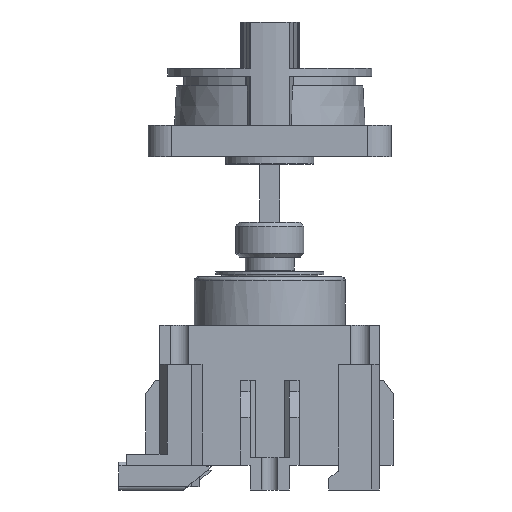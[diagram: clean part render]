
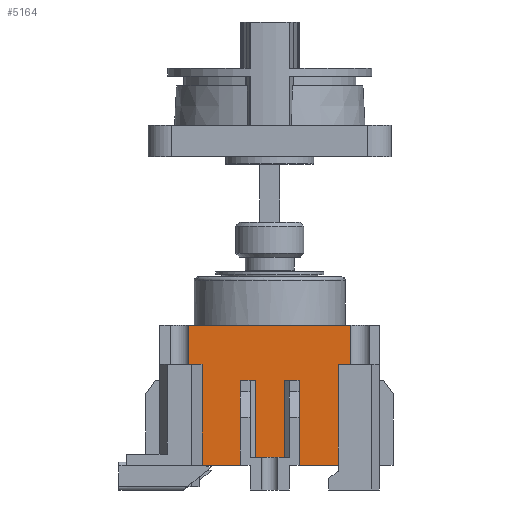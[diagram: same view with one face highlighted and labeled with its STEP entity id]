
A CAD part, left-side view. The second image highlights one B-rep face of the part: STEP entity #5164.
In plain terms, the highlighted planar face has unit normal (-1, 0, 0).
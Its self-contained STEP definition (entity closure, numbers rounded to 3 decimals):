
#5 = DIRECTION ( 'NONE',  ( 0., 1., 0. ) ) ;
#62 = VERTEX_POINT ( 'NONE', #10648 ) ;
#73 = DIRECTION ( 'NONE',  ( 0., 1., 0. ) ) ;
#78 = CARTESIAN_POINT ( 'NONE',  ( -19.75, 28.156, 28. ) ) ;
#99 = EDGE_LOOP ( 'NONE', ( #9365, #6759, #11222, #3798, #8812, #12353, #3203, #12714, #8149, #7999, #6955, #6650, #4840, #10590, #1979, #6684 ) ) ;
#814 = CARTESIAN_POINT ( 'NONE',  ( -19.75, 17.158, 32. ) ) ;
#860 = LINE ( 'NONE', #814, #12434 ) ;
#1050 = CARTESIAN_POINT ( 'NONE',  ( -19.75, -21.033, 6.3 ) ) ;
#1180 = VECTOR ( 'NONE', #8472, 1000. ) ;
#1215 = VECTOR ( 'NONE', #9196, 1000. ) ;
#1241 = CARTESIAN_POINT ( 'NONE',  ( -19.75, 13.725, 42. ) ) ;
#1351 = CARTESIAN_POINT ( 'NONE',  ( -19.75, 17.158, 42. ) ) ;
#1528 = VERTEX_POINT ( 'NONE', #9321 ) ;
#1536 = VERTEX_POINT ( 'NONE', #8112 ) ;
#1635 = DIRECTION ( 'NONE',  ( 0., 0., 1. ) ) ;
#1711 = AXIS2_PLACEMENT_3D ( 'NONE', #1976, #7998, #73 ) ;
#1955 = EDGE_CURVE ( 'NONE', #7805, #6269, #5920, .T. ) ;
#1976 = CARTESIAN_POINT ( 'NONE',  ( -19.75, 0., 42. ) ) ;
#1979 = ORIENTED_EDGE ( 'NONE', *, *, #1955, .T. ) ;
#1985 = EDGE_CURVE ( 'NONE', #12647, #12800, #8590, .T. ) ;
#2510 = CARTESIAN_POINT ( 'NONE',  ( -19.75, -7.199, 8.3 ) ) ;
#2582 = LINE ( 'NONE', #11697, #10263 ) ;
#2624 = DIRECTION ( 'NONE',  ( 0., -1., 0. ) ) ;
#3016 = VECTOR ( 'NONE', #7331, 1000. ) ;
#3203 = ORIENTED_EDGE ( 'NONE', *, *, #3902, .T. ) ;
#3282 = VECTOR ( 'NONE', #2624, 1000. ) ;
#3375 = VERTEX_POINT ( 'NONE', #10070 ) ;
#3573 = LINE ( 'NONE', #9325, #1215 ) ;
#3643 = VECTOR ( 'NONE', #9267, 1000. ) ;
#3687 = DIRECTION ( 'NONE',  ( 0., 1., 0. ) ) ;
#3798 = ORIENTED_EDGE ( 'NONE', *, *, #11656, .F. ) ;
#3902 = EDGE_CURVE ( 'NONE', #11421, #3375, #5656, .T. ) ;
#4001 = EDGE_CURVE ( 'NONE', #6269, #11406, #6732, .T. ) ;
#4267 = VERTEX_POINT ( 'NONE', #11951 ) ;
#4615 = CARTESIAN_POINT ( 'NONE',  ( -19.75, 0., 8.3 ) ) ;
#4709 = LINE ( 'NONE', #8043, #8139 ) ;
#4787 = LINE ( 'NONE', #10326, #1180 ) ;
#4824 = VECTOR ( 'NONE', #10011, 1000. ) ;
#4828 = DIRECTION ( 'NONE',  ( 0., 0., 1. ) ) ;
#4840 = ORIENTED_EDGE ( 'NONE', *, *, #11385, .T. ) ;
#5129 = EDGE_CURVE ( 'NONE', #1528, #11421, #6699, .T. ) ;
#5147 = LINE ( 'NONE', #6618, #10338 ) ;
#5164 = ADVANCED_FACE ( 'NONE', ( #5762 ), #5824, .F. ) ;
#5519 = DIRECTION ( 'NONE',  ( 0., 0., 1. ) ) ;
#5572 = CARTESIAN_POINT ( 'NONE',  ( -19.75, 0.133, 8.3 ) ) ;
#5656 = LINE ( 'NONE', #78, #3016 ) ;
#5708 = CARTESIAN_POINT ( 'NONE',  ( -19.75, 17.158, 32. ) ) ;
#5762 = FACE_OUTER_BOUND ( 'NONE', #99, .T. ) ;
#5824 = PLANE ( 'NONE',  #1711 ) ;
#5837 = VECTOR ( 'NONE', #8583, 1000. ) ;
#5882 = CARTESIAN_POINT ( 'NONE',  ( -19.75, 0., 42. ) ) ;
#5920 = LINE ( 'NONE', #11800, #9240 ) ;
#5949 = EDGE_CURVE ( 'NONE', #1536, #10873, #3573, .T. ) ;
#6022 = VERTEX_POINT ( 'NONE', #12536 ) ;
#6115 = CARTESIAN_POINT ( 'NONE',  ( -19.75, 0., 6.3 ) ) ;
#6123 = CARTESIAN_POINT ( 'NONE',  ( -19.75, -11.033, 42. ) ) ;
#6269 = VERTEX_POINT ( 'NONE', #9845 ) ;
#6408 = CARTESIAN_POINT ( 'NONE',  ( -19.75, -24.224, 32. ) ) ;
#6618 = CARTESIAN_POINT ( 'NONE',  ( -19.75, 0., 6.3 ) ) ;
#6623 = EDGE_CURVE ( 'NONE', #10131, #1528, #12747, .T. ) ;
#6650 = ORIENTED_EDGE ( 'NONE', *, *, #12039, .T. ) ;
#6684 = ORIENTED_EDGE ( 'NONE', *, *, #4001, .T. ) ;
#6699 = LINE ( 'NONE', #2510, #9084 ) ;
#6732 = LINE ( 'NONE', #1241, #3643 ) ;
#6759 = ORIENTED_EDGE ( 'NONE', *, *, #8691, .F. ) ;
#6866 = VECTOR ( 'NONE', #8502, 1000. ) ;
#6955 = ORIENTED_EDGE ( 'NONE', *, *, #8877, .T. ) ;
#7091 = DIRECTION ( 'NONE',  ( 0., -1., 0. ) ) ;
#7331 = DIRECTION ( 'NONE',  ( 0., -1., 0. ) ) ;
#7602 = DIRECTION ( 'NONE',  ( 0., -1., 0. ) ) ;
#7805 = VERTEX_POINT ( 'NONE', #5708 ) ;
#7888 = CARTESIAN_POINT ( 'NONE',  ( -19.75, 13.725, 6.3 ) ) ;
#7998 = DIRECTION ( 'NONE',  ( 1., 0., 0. ) ) ;
#7999 = ORIENTED_EDGE ( 'NONE', *, *, #5949, .F. ) ;
#8043 = CARTESIAN_POINT ( 'NONE',  ( -19.75, 3.967, 42. ) ) ;
#8112 = CARTESIAN_POINT ( 'NONE',  ( -19.75, -21.033, 32. ) ) ;
#8139 = VECTOR ( 'NONE', #10187, 1000. ) ;
#8149 = ORIENTED_EDGE ( 'NONE', *, *, #9536, .F. ) ;
#8472 = DIRECTION ( 'NONE',  ( 0., 0., 1. ) ) ;
#8502 = DIRECTION ( 'NONE',  ( 0., -1., 0. ) ) ;
#8539 = CARTESIAN_POINT ( 'NONE',  ( -19.75, 0., 32. ) ) ;
#8545 = VECTOR ( 'NONE', #5, 1000. ) ;
#8583 = DIRECTION ( 'NONE',  ( 0., -1., 0. ) ) ;
#8590 = LINE ( 'NONE', #8929, #3282 ) ;
#8691 = EDGE_CURVE ( 'NONE', #12647, #4267, #4709, .T. ) ;
#8812 = ORIENTED_EDGE ( 'NONE', *, *, #6623, .T. ) ;
#8877 = EDGE_CURVE ( 'NONE', #1536, #12618, #9576, .T. ) ;
#8895 = LINE ( 'NONE', #6123, #4824 ) ;
#8929 = CARTESIAN_POINT ( 'NONE',  ( -19.75, 28.156, 28. ) ) ;
#9040 = CARTESIAN_POINT ( 'NONE',  ( -19.75, 0.133, 28. ) ) ;
#9084 = VECTOR ( 'NONE', #5519, 1000. ) ;
#9196 = DIRECTION ( 'NONE',  ( 0., 0., -1. ) ) ;
#9240 = VECTOR ( 'NONE', #7602, 1000. ) ;
#9267 = DIRECTION ( 'NONE',  ( 0., 0., -1. ) ) ;
#9321 = CARTESIAN_POINT ( 'NONE',  ( -19.75, -7.199, 8.3 ) ) ;
#9325 = CARTESIAN_POINT ( 'NONE',  ( -19.75, -21.033, 0. ) ) ;
#9365 = ORIENTED_EDGE ( 'NONE', *, *, #12334, .T. ) ;
#9472 = VECTOR ( 'NONE', #7091, 1000. ) ;
#9536 = EDGE_CURVE ( 'NONE', #10873, #6022, #5147, .T. ) ;
#9576 = LINE ( 'NONE', #8539, #6866 ) ;
#9845 = CARTESIAN_POINT ( 'NONE',  ( -19.75, 13.725, 32. ) ) ;
#10011 = DIRECTION ( 'NONE',  ( 0., 0., -1. ) ) ;
#10070 = CARTESIAN_POINT ( 'NONE',  ( -19.75, -11.033, 28. ) ) ;
#10131 = VERTEX_POINT ( 'NONE', #5572 ) ;
#10187 = DIRECTION ( 'NONE',  ( 0., 0., -1. ) ) ;
#10263 = VECTOR ( 'NONE', #1635, 1000. ) ;
#10300 = EDGE_CURVE ( 'NONE', #3375, #6022, #8895, .T. ) ;
#10326 = CARTESIAN_POINT ( 'NONE',  ( -19.75, 0.133, 8.3 ) ) ;
#10338 = VECTOR ( 'NONE', #3687, 1000. ) ;
#10440 = LINE ( 'NONE', #5882, #8545 ) ;
#10590 = ORIENTED_EDGE ( 'NONE', *, *, #12229, .F. ) ;
#10648 = CARTESIAN_POINT ( 'NONE',  ( -19.75, -24.224, 42. ) ) ;
#10873 = VERTEX_POINT ( 'NONE', #1050 ) ;
#11043 = CARTESIAN_POINT ( 'NONE',  ( -19.75, -7.199, 28. ) ) ;
#11222 = ORIENTED_EDGE ( 'NONE', *, *, #1985, .T. ) ;
#11385 = EDGE_CURVE ( 'NONE', #62, #12369, #10440, .T. ) ;
#11406 = VERTEX_POINT ( 'NONE', #7888 ) ;
#11421 = VERTEX_POINT ( 'NONE', #11043 ) ;
#11656 = EDGE_CURVE ( 'NONE', #10131, #12800, #4787, .T. ) ;
#11697 = CARTESIAN_POINT ( 'NONE',  ( -19.75, -24.224, 32. ) ) ;
#11800 = CARTESIAN_POINT ( 'NONE',  ( -19.75, 0., 32. ) ) ;
#11951 = CARTESIAN_POINT ( 'NONE',  ( -19.75, 3.967, 6.3 ) ) ;
#12039 = EDGE_CURVE ( 'NONE', #12618, #62, #2582, .T. ) ;
#12123 = LINE ( 'NONE', #6115, #9472 ) ;
#12229 = EDGE_CURVE ( 'NONE', #7805, #12369, #860, .T. ) ;
#12334 = EDGE_CURVE ( 'NONE', #11406, #4267, #12123, .T. ) ;
#12353 = ORIENTED_EDGE ( 'NONE', *, *, #5129, .T. ) ;
#12369 = VERTEX_POINT ( 'NONE', #1351 ) ;
#12434 = VECTOR ( 'NONE', #4828, 1000. ) ;
#12536 = CARTESIAN_POINT ( 'NONE',  ( -19.75, -11.033, 6.3 ) ) ;
#12618 = VERTEX_POINT ( 'NONE', #6408 ) ;
#12647 = VERTEX_POINT ( 'NONE', #12735 ) ;
#12714 = ORIENTED_EDGE ( 'NONE', *, *, #10300, .T. ) ;
#12735 = CARTESIAN_POINT ( 'NONE',  ( -19.75, 3.967, 28. ) ) ;
#12747 = LINE ( 'NONE', #4615, #5837 ) ;
#12800 = VERTEX_POINT ( 'NONE', #9040 ) ;
